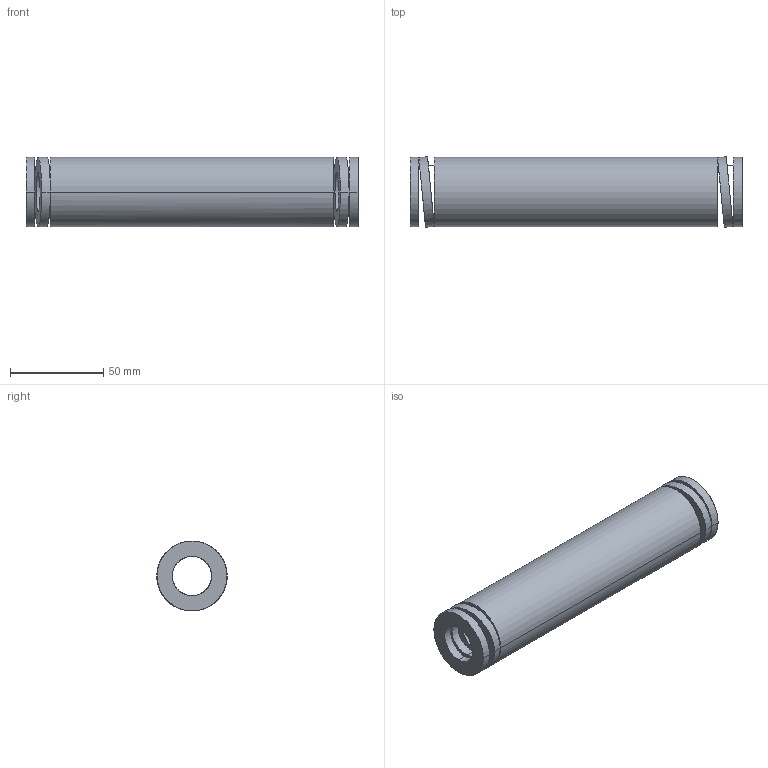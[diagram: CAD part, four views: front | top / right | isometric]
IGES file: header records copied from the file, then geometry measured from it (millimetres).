
Start section: START RECORD GO HERE.
Global section: file name: 392-B40-178.igs; native system: DASSAULT SYSTEMES CATIA V5 R20 - www.3ds.com; preprocessor: CATIA Version 5 Release 20 ; author: Utente; organization: NB04-ASUS; date: 20210813.131345; units: millimetre
Bounding box: 178 x 37.78 x 37.5 mm (x, y, z)
Surface area: 38944.7 mm2 (no closed solid volume)
Topology: 0 solids, 0 shells, 38 faces, 184 edges, 184 vertices
Faces by surface type: revolution 28, plane 10
